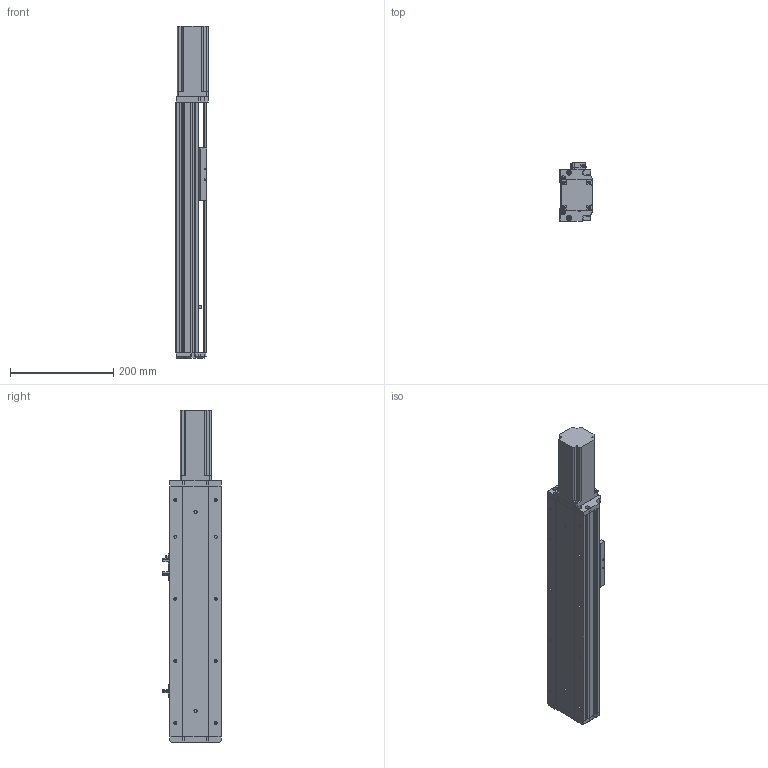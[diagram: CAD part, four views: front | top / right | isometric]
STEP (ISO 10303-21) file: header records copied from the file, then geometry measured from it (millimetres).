
FILE_DESCRIPTION (( 'STEP AP214' ), '1' );
FILE_NAME ('KSD100S-S250-MN-CM.STEP', '2019-08-30T06:52:27', ( '微软用户' ), ( '微软中国' ), 'SwSTEP 2.0', 'SolidWorks 2014', '' );
FILE_SCHEMA (( 'AUTOMOTIVE_DESIGN' ));
Length unit declared in the file: millimetre
Products named in the file (9): 台达ECMA－C20604AS伺服电机; 覜茼え100遵圉猾敕; U倰嫖萇EEㄜSX672; 100宽防尘板丝杆250行程不带电机座; 100宽马达安装板不带电机座; 100宽滚珠螺姆安装板半封闭; 100遵傷啣; 100宽底板半封闭250行程丝杆不带电机座; KSD100S-S250-MN-CM
Assembly tree (10 placements, depth 2):
  KSD100S-S250-MN-CM
    100宽底板半封闭250行程丝杆不带电机座
    100遵傷啣
    100宽滚珠螺姆安装板半封闭
    100宽马达安装板不带电机座
    100宽防尘板丝杆250行程不带电机座
    U倰嫖萇EEㄜSX672  x3
    覜茼え100遵圉猾敕
    台达ECMA－C20604AS伺服电机
Bounding box: 62 x 113.7 x 642 mm (x, y, z)
Volume: 1523060 mm3; surface area: 428575.3 mm2
Topology: 11 solids, 11 shells, 1008 faces, 2838 edges, 1807 vertices
Faces by surface type: cylinder 461, plane 448, cone 99
Entity records: 33768 total; most frequent: CARTESIAN_POINT 6364, DIRECTION 4521, ORIENTED_EDGE 4384, EDGE_CURVE 2192, AXIS2_PLACEMENT_3D 1616, VERTEX_POINT 1431, LINE 1289, VECTOR 1289
